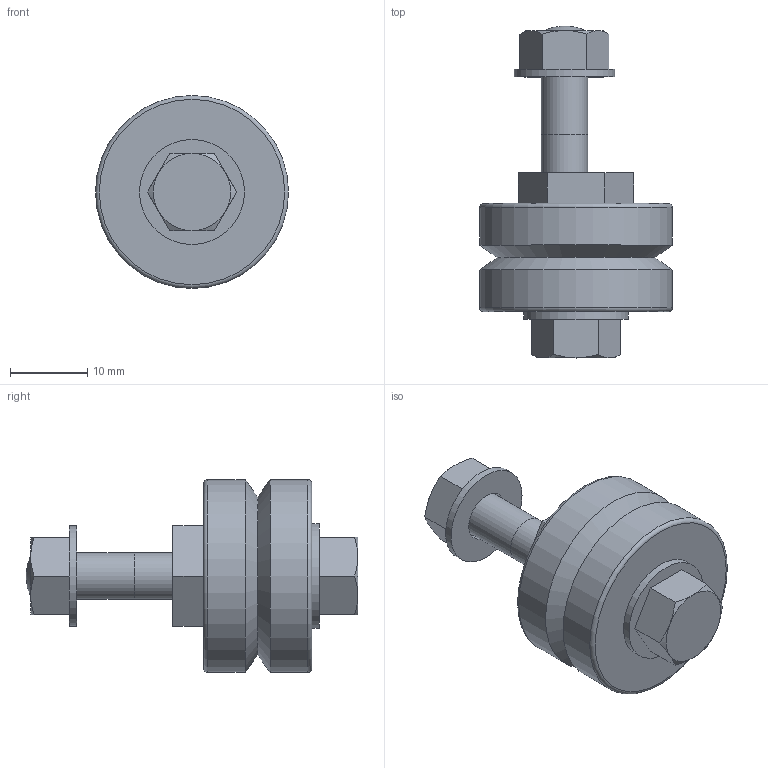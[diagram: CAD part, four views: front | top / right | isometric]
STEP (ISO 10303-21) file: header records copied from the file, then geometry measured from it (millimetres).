
FILE_DESCRIPTION(('STEP AP203'),'1');
FILE_NAME('//192.168.1.1/share/s-4 技術開発/s-4-4_CAD/s-4-4-6_見直し、確認済み/013 修正済み(済)/ジャーナル_TOP/NA/NA-7-E.step','2022-03-11T06:55:57',(' '),(' '),'Spatial InterOp 3D',' ',' ');
FILE_SCHEMA(('CONFIG_CONTROL_DESIGN'));
Length unit declared in the file: millimetre
Products named in the file (3): 1; 2; 3
Bounding box: 25 x 43 x 25 mm (x, y, z)
Volume: 8713.8 mm3; surface area: 3574.9 mm2
Topology: 3 solids, 3 shells, 52 faces, 113 edges, 70 vertices
Faces by surface type: plane 27, cone 14, cylinder 8, torus 2, sphere 1
Full cylindrical faces by diameter (mm): 5 x1, 6 x2, 6.5 x1, 13 x1, 13.6 x1, 25 x2
Entity records: 1510 total; most frequent: CARTESIAN_POINT 337, DIRECTION 212, ORIENTED_EDGE 192, EDGE_CURVE 96, AXIS2_PLACEMENT_3D 85, EDGE_LOOP 72, VERTEX_POINT 66, FACE_OUTER_BOUND 62
